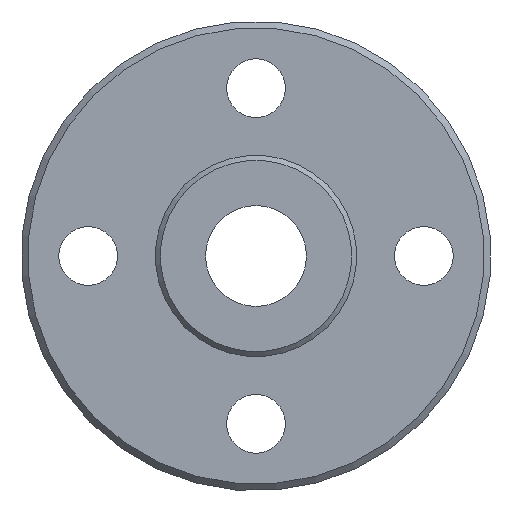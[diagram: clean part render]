
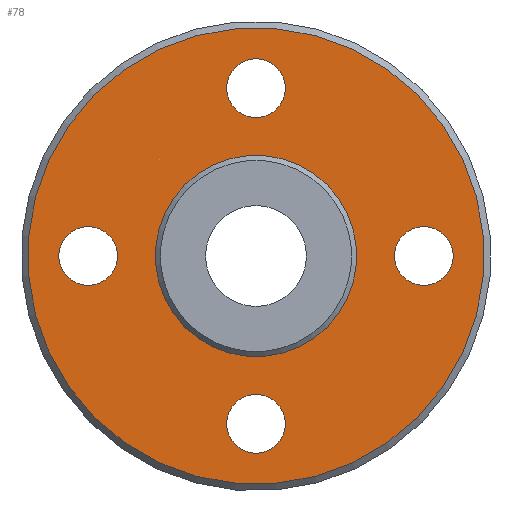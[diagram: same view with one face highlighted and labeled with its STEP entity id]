
A CAD part, left-side view. The second image highlights one B-rep face of the part: STEP entity #78.
In plain terms, the highlighted planar face has unit normal (-1, 0, 0).
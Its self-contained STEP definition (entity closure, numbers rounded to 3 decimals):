
#78=ADVANCED_FACE('',(#113,#114,#115,#116,#117,#118),#119,.T.);
#113=FACE_BOUND('',#205,.T.);
#114=FACE_BOUND('',#206,.T.);
#115=FACE_OUTER_BOUND('',#207,.T.);
#116=FACE_BOUND('',#208,.T.);
#117=FACE_BOUND('',#209,.T.);
#118=FACE_BOUND('',#210,.T.);
#119=PLANE('',#211);
#205=EDGE_LOOP('',(#303));
#206=EDGE_LOOP('',(#304));
#207=EDGE_LOOP('',(#305));
#208=EDGE_LOOP('',(#306));
#209=EDGE_LOOP('',(#307));
#210=EDGE_LOOP('',(#308));
#211=AXIS2_PLACEMENT_3D('',#309,#310,#311);
#303=ORIENTED_EDGE('',*,*,#442,.T.);
#304=ORIENTED_EDGE('',*,*,#443,.T.);
#305=ORIENTED_EDGE('',*,*,#444,.F.);
#306=ORIENTED_EDGE('',*,*,#445,.T.);
#307=ORIENTED_EDGE('',*,*,#446,.T.);
#308=ORIENTED_EDGE('',*,*,#447,.T.);
#309=CARTESIAN_POINT('',(-5.0,6.841,6.841));
#310=DIRECTION('',(-1.0,0.0,0.));
#311=DIRECTION('',(0.,-0.707,0.707));
#442=EDGE_CURVE('',#480,#480,#481,.F.);
#443=EDGE_CURVE('',#482,#482,#483,.F.);
#444=EDGE_CURVE('',#484,#484,#485,.T.);
#445=EDGE_CURVE('',#486,#486,#487,.T.);
#446=EDGE_CURVE('',#488,#488,#489,.F.);
#447=EDGE_CURVE('',#490,#490,#491,.F.);
#480=VERTEX_POINT('',#544);
#481=CIRCLE('',#545,1.75);
#482=VERTEX_POINT('',#546);
#483=CIRCLE('',#547,1.75);
#484=VERTEX_POINT('',#548);
#485=CIRCLE('',#549,13.6);
#486=VERTEX_POINT('',#550);
#487=CIRCLE('',#551,5.75);
#488=VERTEX_POINT('',#552);
#489=CIRCLE('',#553,1.75);
#490=VERTEX_POINT('',#554);
#491=CIRCLE('',#555,1.75);
#544=CARTESIAN_POINT('',(-5.0,-1.237,-8.763));
#545=AXIS2_PLACEMENT_3D('',#614,#615,#616);
#546=CARTESIAN_POINT('',(-5.0,-1.237,11.237));
#547=AXIS2_PLACEMENT_3D('',#617,#618,#619);
#548=CARTESIAN_POINT('',(-5.,9.617,9.617));
#549=AXIS2_PLACEMENT_3D('',#620,#621,#622);
#550=CARTESIAN_POINT('',(-5.0,4.066,4.066));
#551=AXIS2_PLACEMENT_3D('',#623,#624,#625);
#552=CARTESIAN_POINT('',(-5.0,-11.237,1.237));
#553=AXIS2_PLACEMENT_3D('',#626,#627,#628);
#554=CARTESIAN_POINT('',(-5.0,8.763,1.237));
#555=AXIS2_PLACEMENT_3D('',#629,#630,#631);
#614=CARTESIAN_POINT('',(-5.0,0.,-10.0));
#615=DIRECTION('',(-1.0,0.0,0.));
#616=DIRECTION('',(0.,-0.707,0.707));
#617=CARTESIAN_POINT('',(-5.0,0.,10.0));
#618=DIRECTION('',(-1.0,0.0,0.));
#619=DIRECTION('',(0.,-0.707,0.707));
#620=CARTESIAN_POINT('',(-5.0,0.,0.));
#621=DIRECTION('',(1.0,0.0,0.));
#622=DIRECTION('',(0.,0.707,0.707));
#623=CARTESIAN_POINT('',(-5.0,0.,0.));
#624=DIRECTION('',(1.0,0.0,0.));
#625=DIRECTION('',(0.,0.707,0.707));
#626=CARTESIAN_POINT('',(-5.0,-10.0,0.));
#627=DIRECTION('',(-1.0,0.0,0.));
#628=DIRECTION('',(0.,-0.707,0.707));
#629=CARTESIAN_POINT('',(-5.0,10.0,0.));
#630=DIRECTION('',(-1.0,0.0,0.));
#631=DIRECTION('',(0.,-0.707,0.707));
